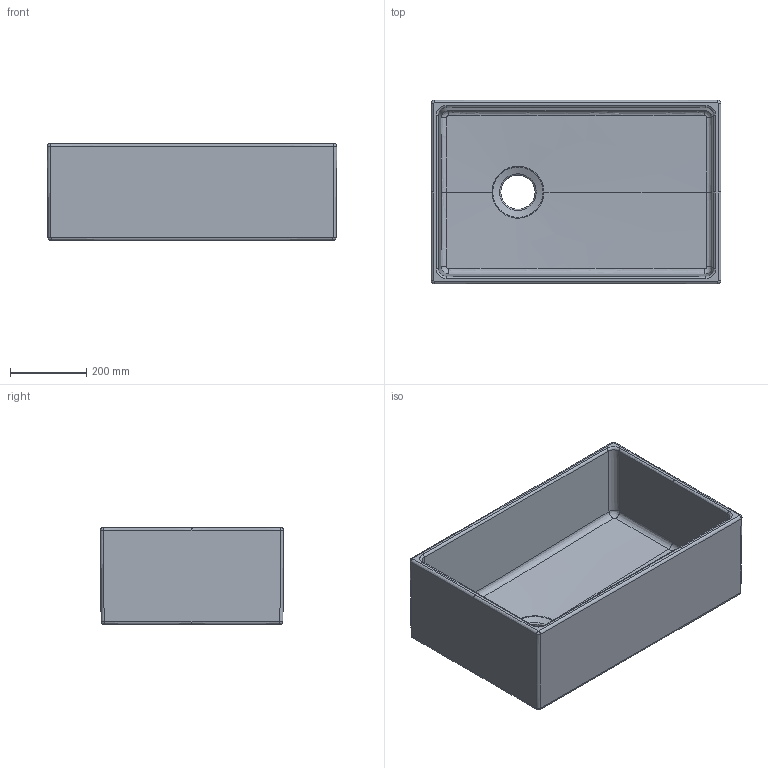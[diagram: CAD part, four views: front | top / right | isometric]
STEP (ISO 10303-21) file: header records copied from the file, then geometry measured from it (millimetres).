
FILE_DESCRIPTION(/* description */ (''),/* implementation_level */ '2;1');
FILE_NAME(/* name */ '1346 30x19x10 Tek goz AF flat rim.stp',/* time_stamp */ '2016-10-19T08:53:19+03:00',/* author */ (''),/* organization */ (''),/* preprocessor_version */ 'ST-DEVELOPER v16',/* originating_system */ 'SIEMENS PLM Software NX 10.0',/* authorisation */ '');
FILE_SCHEMA (('AP203_CONFIGURATION_CONTROLLED_3D_DESIGN_OF_MECHANICAL_PARTS_AND_ASSEMBLIES_MIM_LF { 1 0 10303 403 2 1 2}'));
Length unit declared in the file: millimetre
Products named in the file (1): Cosk54B82AA890fl
Bounding box: 761.88 x 482.47 x 254 mm (x, y, z)
Volume: 19314657 mm3; surface area: 1849938 mm2
Topology: 1 solids, 1 shells, 314 faces, 713 edges, 410 vertices
Faces by surface type: bspline 240, cylinder 39, plane 34, cone 1
Full cylindrical faces by diameter (mm): 8 x4
Entity records: 16186 total; most frequent: CARTESIAN_POINT 10736, ORIENTED_EDGE 1412, EDGE_CURVE 706, DIRECTION 671, B_SPLINE_CURVE_WITH_KNOTS 411, VERTEX_POINT 408, EDGE_LOOP 330, ADVANCED_FACE 314
